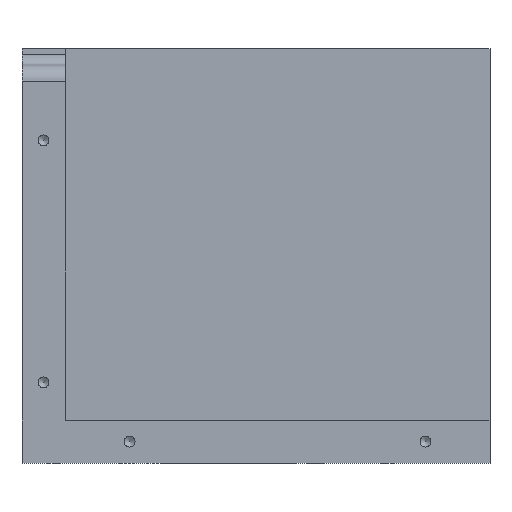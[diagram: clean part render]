
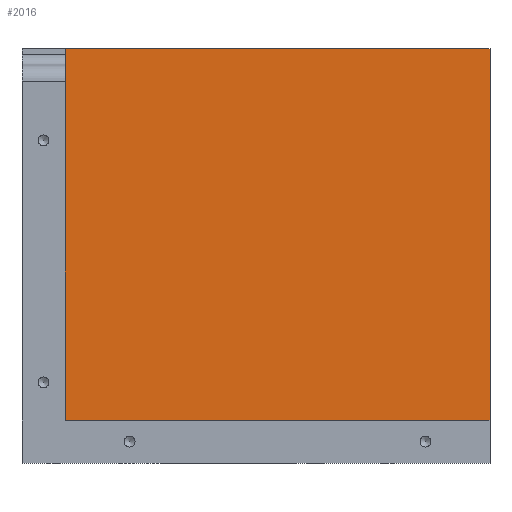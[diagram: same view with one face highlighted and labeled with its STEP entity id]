
A CAD part, left-side view. The second image highlights one B-rep face of the part: STEP entity #2016.
In plain terms, the highlighted planar face has unit normal (-1, 0, 0).
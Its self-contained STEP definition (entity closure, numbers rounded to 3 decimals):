
#59=PLANE('',#2278);
#71=LINE('',#2986,#189);
#75=LINE('',#2993,#193);
#133=LINE('',#3284,#251);
#178=LINE('',#3505,#296);
#189=VECTOR('',#2354,69.);
#193=VECTOR('',#2360,79.);
#251=VECTOR('',#2668,79.);
#296=VECTOR('',#2917,69.);
#582=FACE_OUTER_BOUND('',#801,.T.);
#801=EDGE_LOOP('',(#1836,#1837,#1838,#1839));
#956=VERTEX_POINT('',#2983);
#957=VERTEX_POINT('',#2985);
#959=VERTEX_POINT('',#2991);
#1067=VERTEX_POINT('',#3283);
#1148=EDGE_CURVE('',#957,#956,#71,.T.);
#1152=EDGE_CURVE('',#956,#959,#75,.T.);
#1283=EDGE_CURVE('',#957,#1067,#133,.T.);
#1367=EDGE_CURVE('',#959,#1067,#178,.T.);
#1836=ORIENTED_EDGE('',*,*,#1152,.T.);
#1837=ORIENTED_EDGE('',*,*,#1367,.T.);
#1838=ORIENTED_EDGE('',*,*,#1283,.F.);
#1839=ORIENTED_EDGE('',*,*,#1148,.T.);
#2016=ADVANCED_FACE('',(#582),#59,.T.);
#2278=AXIS2_PLACEMENT_3D('',#3504,#2915,#2916);
#2354=DIRECTION('',(0.,0.,-1.));
#2360=DIRECTION('',(0.,-1.,0.));
#2668=DIRECTION('',(0.,-1.,0.));
#2915=DIRECTION('center_axis',(-1.,0.,0.));
#2916=DIRECTION('ref_axis',(0.,0.,1.));
#2917=DIRECTION('',(0.,0.,1.));
#2983=CARTESIAN_POINT('',(-31.75,79.,-28.));
#2985=CARTESIAN_POINT('',(-31.75,79.,41.));
#2986=CARTESIAN_POINT('',(-31.75,79.,-8.501));
#2991=CARTESIAN_POINT('',(-31.75,0.,-28.));
#2993=CARTESIAN_POINT('',(-31.75,39.5,-28.));
#3283=CARTESIAN_POINT('',(-31.75,0.,41.));
#3284=CARTESIAN_POINT('',(-31.75,87.,41.));
#3504=CARTESIAN_POINT('Origin',(-31.75,0.,-36.));
#3505=CARTESIAN_POINT('',(-31.75,0.,-36.));
